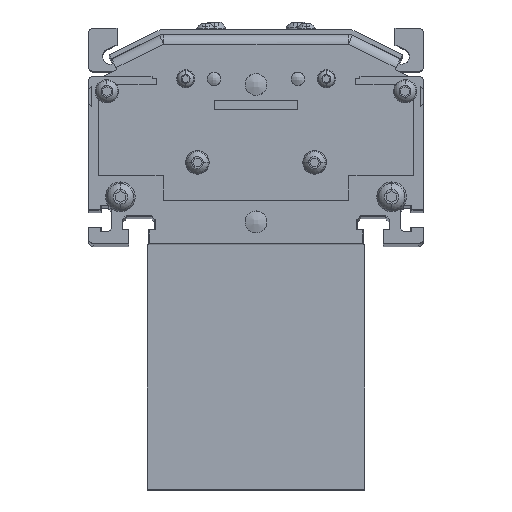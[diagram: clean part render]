
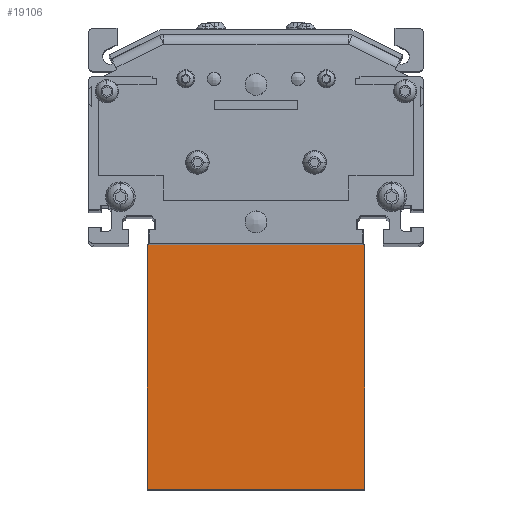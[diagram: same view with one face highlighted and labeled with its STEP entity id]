
A CAD part, top view. The second image highlights one B-rep face of the part: STEP entity #19106.
In plain terms, the highlighted planar face has unit normal (0, 0, 1).
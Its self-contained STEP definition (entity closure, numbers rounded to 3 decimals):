
#206 = ORIENTED_EDGE ( 'NONE', *, *, #5381, .T. ) ;
#1438 = CARTESIAN_POINT ( 'NONE',  ( 65., 0., 135. ) ) ;
#1461 = DIRECTION ( 'NONE',  ( -1., 0., 0. ) ) ;
#1692 = PLANE ( 'NONE',  #6787 ) ;
#1967 = CARTESIAN_POINT ( 'NONE',  ( -65., 146., 135. ) ) ;
#2424 = CARTESIAN_POINT ( 'NONE',  ( 65., 0., 135. ) ) ;
#2845 = CARTESIAN_POINT ( 'NONE',  ( 65., 146., 135. ) ) ;
#3007 = CARTESIAN_POINT ( 'NONE',  ( 65., 146., 135. ) ) ;
#3388 = DIRECTION ( 'NONE',  ( 0., 0., -1. ) ) ;
#5381 = EDGE_CURVE ( 'NONE', #15887, #19874, #11855, .T. ) ;
#5438 = ORIENTED_EDGE ( 'NONE', *, *, #14114, .T. ) ;
#6434 = EDGE_LOOP ( 'NONE', ( #5438, #8147, #10014, #206 ) ) ;
#6595 = FACE_OUTER_BOUND ( 'NONE', #6434, .T. ) ;
#6787 = AXIS2_PLACEMENT_3D ( 'NONE', #21299, #3388, #1461 ) ;
#7027 = DIRECTION ( 'NONE',  ( 0., -1., 0. ) ) ;
#7981 = EDGE_CURVE ( 'NONE', #20374, #19928, #9410, .T. ) ;
#8147 = ORIENTED_EDGE ( 'NONE', *, *, #7981, .F. ) ;
#8872 = LINE ( 'NONE', #11129, #23228 ) ;
#9294 = DIRECTION ( 'NONE',  ( -1., 0., 0. ) ) ;
#9410 = LINE ( 'NONE', #2424, #12989 ) ;
#9745 = EDGE_CURVE ( 'NONE', #15887, #20374, #10841, .T. ) ;
#10014 = ORIENTED_EDGE ( 'NONE', *, *, #9745, .F. ) ;
#10841 = LINE ( 'NONE', #13001, #16852 ) ;
#11129 = CARTESIAN_POINT ( 'NONE',  ( -65., 0., 135. ) ) ;
#11855 = LINE ( 'NONE', #2845, #14405 ) ;
#12578 = DIRECTION ( 'NONE',  ( 0., -1., 0. ) ) ;
#12989 = VECTOR ( 'NONE', #9294, 1000. ) ;
#13001 = CARTESIAN_POINT ( 'NONE',  ( 65., 0., 135. ) ) ;
#14114 = EDGE_CURVE ( 'NONE', #19874, #19928, #8872, .T. ) ;
#14251 = DIRECTION ( 'NONE',  ( -1., 0., 0. ) ) ;
#14405 = VECTOR ( 'NONE', #14251, 1000. ) ;
#15887 = VERTEX_POINT ( 'NONE', #3007 ) ;
#16852 = VECTOR ( 'NONE', #7027, 1000. ) ;
#19106 = ADVANCED_FACE ( 'NONE', ( #6595 ), #1692, .F. ) ;
#19874 = VERTEX_POINT ( 'NONE', #1967 ) ;
#19928 = VERTEX_POINT ( 'NONE', #20474 ) ;
#20374 = VERTEX_POINT ( 'NONE', #1438 ) ;
#20474 = CARTESIAN_POINT ( 'NONE',  ( -65., 0., 135. ) ) ;
#21299 = CARTESIAN_POINT ( 'NONE',  ( 65., 0., 135. ) ) ;
#23228 = VECTOR ( 'NONE', #12578, 1000. ) ;
